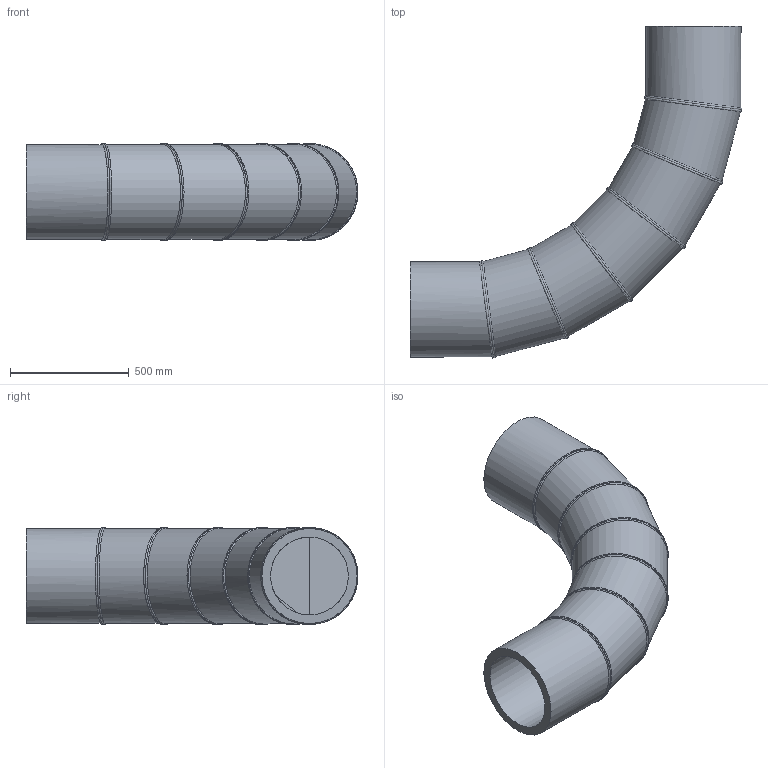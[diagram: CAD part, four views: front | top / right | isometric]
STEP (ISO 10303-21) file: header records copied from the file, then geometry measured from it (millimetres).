
FILE_DESCRIPTION(/* description */ ('Unknown'),/* implementation_level */ '2;1');
FILE_NAME(/* name */ 'Curva 90° a settore DE400 SDR11',/* time_stamp */ '2022-07-27T09:05:45+02:00',/* author */ ('Unknown'),/* organization */ ('Unknown'),/* preprocessor_version */ 'ST-DEVELOPER v18.102',/* originating_system */ 'Solid Edge',/* authorisation */ 'Unknown');
FILE_SCHEMA (('AUTOMOTIVE_DESIGN {1 0 10303 214 3 1 1}'));
Length unit declared in the file: millimetre
Products named in the file (3): Curva 90° a settore DE400 SDR11; Tubo x Gomito 90° DE400 SDR11 - 2; Tubo x Gomito 90° DE400 SDR11 - 1
Assembly tree (7 placements, depth 2):
  Curva 90° a settore DE400 SDR11
    Tubo x Gomito 90° DE400 SDR11 - 2  x5
    Tubo x Gomito 90° DE400 SDR11 - 1  x2
Bounding box: 1396.55 x 1396.55 x 407.99 mm (x, y, z)
Volume: 81921921.5 mm3; surface area: 5149093.9 mm2
Topology: 7 solids, 7 shells, 64 faces, 143 edges, 93 vertices
Faces by surface type: cylinder 38, plane 14, bspline 12
Full cylindrical faces by diameter (mm): 327.4 x7, 400 x7
Entity records: 2408 total; most frequent: CARTESIAN_POINT 1985, DIRECTION 78, ORIENTED_EDGE 52, AXIS2_PLACEMENT_3D 39, EDGE_LOOP 28, FACE_BOUND 28, EDGE_CURVE 26, VERTEX_POINT 20
